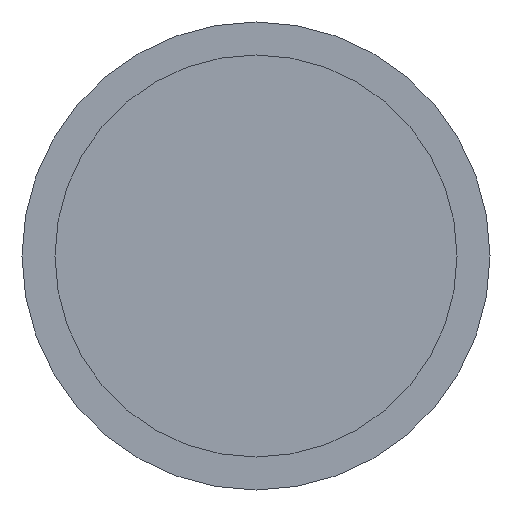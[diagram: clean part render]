
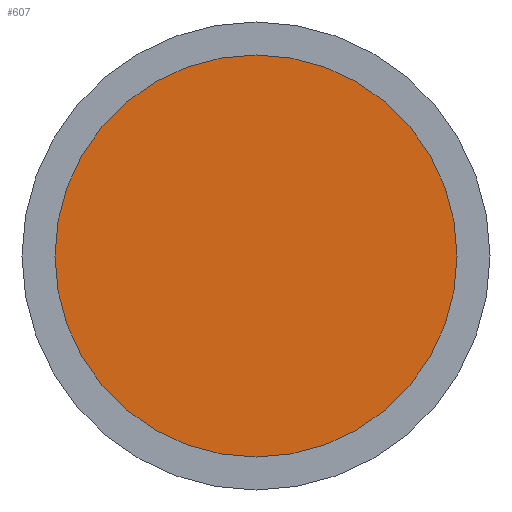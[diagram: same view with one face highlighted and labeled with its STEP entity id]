
A CAD part, front view. The second image highlights one B-rep face of the part: STEP entity #607.
In plain terms, the highlighted planar face has unit normal (0, -1, 0).
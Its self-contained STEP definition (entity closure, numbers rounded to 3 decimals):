
#1 = DIRECTION ( 'NONE',  ( 0., 1., 0. ) ) ;
#11 = AXIS2_PLACEMENT_3D ( 'NONE', #457, #553, #513 ) ;
#46 = DIRECTION ( 'NONE',  ( 0., 1., 0. ) ) ;
#48 = CARTESIAN_POINT ( 'NONE',  ( 0., 0., 0. ) ) ;
#53 = ORIENTED_EDGE ( 'NONE', *, *, #383, .F. ) ;
#68 = AXIS2_PLACEMENT_3D ( 'NONE', #48, #1, #399 ) ;
#93 = CIRCLE ( 'NONE', #340, 6.1 ) ;
#98 = CARTESIAN_POINT ( 'NONE',  ( 0., 0., 0. ) ) ;
#125 = EDGE_LOOP ( 'NONE', ( #53, #332 ) ) ;
#165 = PLANE ( 'NONE',  #11 ) ;
#262 = CIRCLE ( 'NONE', #68, 6.1 ) ;
#332 = ORIENTED_EDGE ( 'NONE', *, *, #391, .F. ) ;
#340 = AXIS2_PLACEMENT_3D ( 'NONE', #98, #46, #586 ) ;
#352 = VERTEX_POINT ( 'NONE', #434 ) ;
#383 = EDGE_CURVE ( 'NONE', #352, #539, #93, .T. ) ;
#391 = EDGE_CURVE ( 'NONE', #539, #352, #262, .T. ) ;
#399 = DIRECTION ( 'NONE',  ( 0., 0., 1. ) ) ;
#434 = CARTESIAN_POINT ( 'NONE',  ( 0., 0., -6.1 ) ) ;
#439 = FACE_OUTER_BOUND ( 'NONE', #125, .T. ) ;
#457 = CARTESIAN_POINT ( 'NONE',  ( 0., 0., 0. ) ) ;
#513 = DIRECTION ( 'NONE',  ( 0., 0., 1. ) ) ;
#539 = VERTEX_POINT ( 'NONE', #592 ) ;
#553 = DIRECTION ( 'NONE',  ( 0., 1., 0. ) ) ;
#586 = DIRECTION ( 'NONE',  ( 0., 0., 1. ) ) ;
#592 = CARTESIAN_POINT ( 'NONE',  ( 0., 0., 6.1 ) ) ;
#607 = ADVANCED_FACE ( 'NONE', ( #439 ), #165, .F. ) ;
